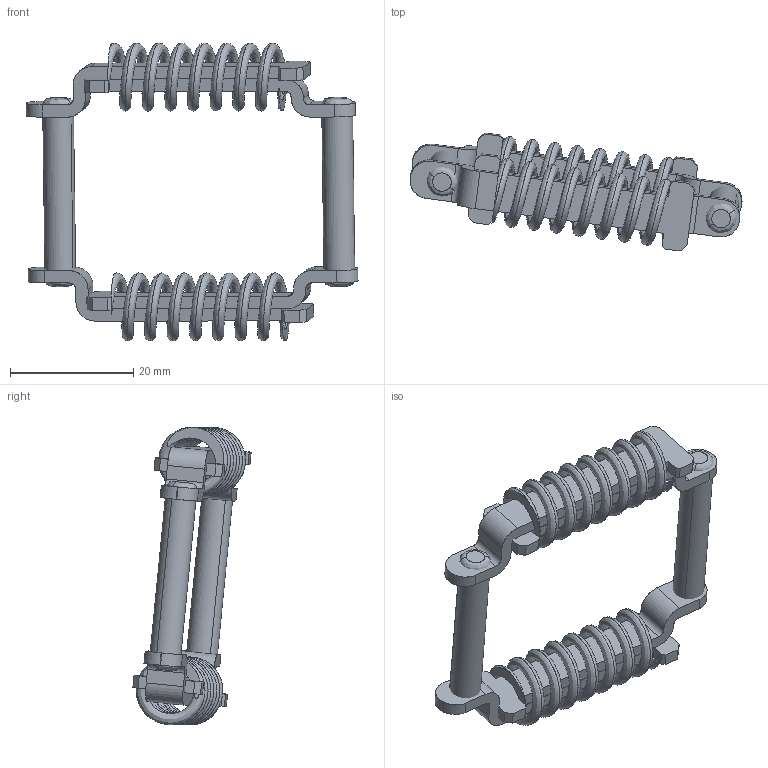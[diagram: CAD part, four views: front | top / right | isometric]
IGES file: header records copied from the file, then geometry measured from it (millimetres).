
Start section: SolidWorks IGES FILE using analytic representation for surfaces
Global section: file name: C:\Documents and Settings\lecoutey\Bureau\GP 29\Assemblage ressort 29.IGS; native system: SolidWorks 2004 by SolidWorks Corporation; preprocessor: Version 5.3; author: lecoutey; date: 050329.141649; units: millimetre
Bounding box: 53.79 x 19.18 x 48.23 mm (x, y, z)
Surface area: 6979.7 mm2 (no closed solid volume)
Topology: 0 solids, 0 shells, 130 faces, 1692 edges, 1692 vertices
Faces by surface type: bspline 94, revolution 36
